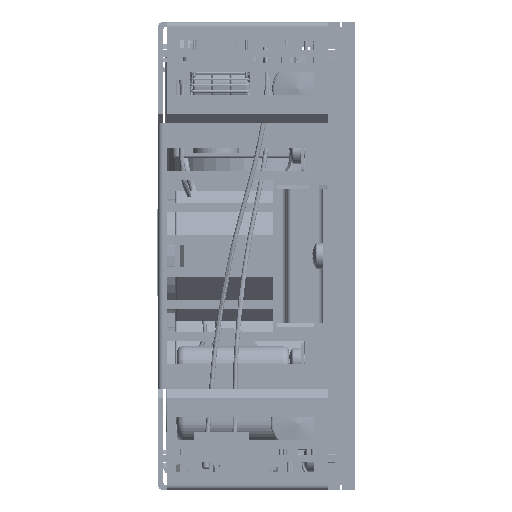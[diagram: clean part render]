
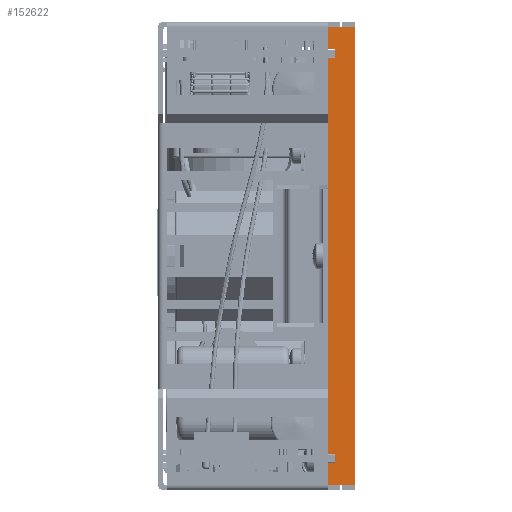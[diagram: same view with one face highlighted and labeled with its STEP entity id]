
A CAD part, left-side view. The second image highlights one B-rep face of the part: STEP entity #152622.
In plain terms, the highlighted planar face has unit normal (-1, 0, 0).
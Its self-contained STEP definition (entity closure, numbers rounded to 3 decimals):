
#106738 = VERTEX_POINT ( 'NONE', #167262 ) ;
#150041 = EDGE_LOOP ( 'NONE', ( #152839, #152863, #152670, #152699, #152843, #152752, #152866, #152940, #152713, #152736, #152948, #152819 ) ) ;
#151825 = VERTEX_POINT ( 'NONE', #250520 ) ;
#152067 = EDGE_CURVE ( 'NONE', #151825, #160185, #250888, .T. ) ;
#152508 = EDGE_CURVE ( 'NONE', #299690, #166200, #251871, .T. ) ;
#152622 = ADVANCED_FACE ( 'NONE', ( #252221 ), #252245, .F. ) ;
#152670 = ORIENTED_EDGE ( 'NONE', *, *, #300370, .T. ) ;
#152699 = ORIENTED_EDGE ( 'NONE', *, *, #152865, .F. ) ;
#152701 = EDGE_CURVE ( 'NONE', #152850, #152854, #252286, .T. ) ;
#152713 = ORIENTED_EDGE ( 'NONE', *, *, #152926, .F. ) ;
#152730 = EDGE_CURVE ( 'NONE', #106738, #152850, #252376, .T. ) ;
#152736 = ORIENTED_EDGE ( 'NONE', *, *, #152958, .F. ) ;
#152740 = VERTEX_POINT ( 'NONE', #252377 ) ;
#152752 = ORIENTED_EDGE ( 'NONE', *, *, #152730, .F. ) ;
#152819 = ORIENTED_EDGE ( 'NONE', *, *, #152508, .F. ) ;
#152839 = ORIENTED_EDGE ( 'NONE', *, *, #299738, .T. ) ;
#152843 = ORIENTED_EDGE ( 'NONE', *, *, #152701, .F. ) ;
#152850 = VERTEX_POINT ( 'NONE', #252444 ) ;
#152854 = VERTEX_POINT ( 'NONE', #252654 ) ;
#152863 = ORIENTED_EDGE ( 'NONE', *, *, #303198, .T. ) ;
#152865 = EDGE_CURVE ( 'NONE', #152854, #300190, #252572, .T. ) ;
#152866 = ORIENTED_EDGE ( 'NONE', *, *, #165036, .T. ) ;
#152926 = EDGE_CURVE ( 'NONE', #152740, #151825, #252789, .T. ) ;
#152940 = ORIENTED_EDGE ( 'NONE', *, *, #152067, .F. ) ;
#152948 = ORIENTED_EDGE ( 'NONE', *, *, #276411, .T. ) ;
#152958 = EDGE_CURVE ( 'NONE', #164330, #152740, #252915, .T. ) ;
#160185 = VERTEX_POINT ( 'NONE', #270523 ) ;
#164330 = VERTEX_POINT ( 'NONE', #282570 ) ;
#165036 = EDGE_CURVE ( 'NONE', #106738, #160185, #284183, .T. ) ;
#166200 = VERTEX_POINT ( 'NONE', #286981 ) ;
#167262 = CARTESIAN_POINT ( 'NONE',  ( 7.656, 4.5, 62.3 ) ) ;
#250520 = CARTESIAN_POINT ( 'NONE',  ( 7.656, 6., -24.1 ) ) ;
#250883 = DIRECTION ( 'NONE',  ( 0., 0., 1. ) ) ;
#250884 = VECTOR ( 'NONE', #250883, 1000. ) ;
#250885 = CARTESIAN_POINT ( 'NONE',  ( 7.656, 6., 70.1 ) ) ;
#250888 = LINE ( 'NONE', #250885, #250884 ) ;
#251871 = LINE ( 'NONE', #251902, #251900 ) ;
#251899 = DIRECTION ( 'NONE',  ( 0., 0., 1. ) ) ;
#251900 = VECTOR ( 'NONE', #251899, 1000. ) ;
#251902 = CARTESIAN_POINT ( 'NONE',  ( 7.656, 6., 70.1 ) ) ;
#252186 = DIRECTION ( 'NONE',  ( 0., 0., -1. ) ) ;
#252213 = AXIS2_PLACEMENT_3D ( 'NONE', #252217, #252239, #252186 ) ;
#252217 = CARTESIAN_POINT ( 'NONE',  ( 7.656, 6., 70.1 ) ) ;
#252221 = FACE_OUTER_BOUND ( 'NONE', #150041, .T. ) ;
#252239 = DIRECTION ( 'NONE',  ( 1., 0., 0. ) ) ;
#252245 = PLANE ( 'NONE',  #252213 ) ;
#252261 = DIRECTION ( 'NONE',  ( 0., 1., 0. ) ) ;
#252263 = VECTOR ( 'NONE', #252261, 1000. ) ;
#252265 = CARTESIAN_POINT ( 'NONE',  ( 7.656, 4.5, 64.3 ) ) ;
#252286 = LINE ( 'NONE', #252265, #252263 ) ;
#252374 = VECTOR ( 'NONE', #252391, 1000. ) ;
#252376 = LINE ( 'NONE', #252387, #252374 ) ;
#252377 = CARTESIAN_POINT ( 'NONE',  ( 7.656, 4.5, -24.1 ) ) ;
#252387 = CARTESIAN_POINT ( 'NONE',  ( 7.656, 4.5, 64.3 ) ) ;
#252391 = DIRECTION ( 'NONE',  ( 0., 0., 1. ) ) ;
#252444 = CARTESIAN_POINT ( 'NONE',  ( 7.656, 4.5, 64.3 ) ) ;
#252565 = DIRECTION ( 'NONE',  ( 0., 0., 1. ) ) ;
#252567 = VECTOR ( 'NONE', #252565, 1000. ) ;
#252570 = CARTESIAN_POINT ( 'NONE',  ( 7.656, 6., 70.1 ) ) ;
#252572 = LINE ( 'NONE', #252570, #252567 ) ;
#252654 = CARTESIAN_POINT ( 'NONE',  ( 7.656, 6., 64.3 ) ) ;
#252708 = DIRECTION ( 'NONE',  ( 0., 0., 1. ) ) ;
#252710 = CARTESIAN_POINT ( 'NONE',  ( 7.656, 4.5, -26.1 ) ) ;
#252789 = LINE ( 'NONE', #252937, #252934 ) ;
#252874 = VECTOR ( 'NONE', #252708, 1000. ) ;
#252915 = LINE ( 'NONE', #252710, #252874 ) ;
#252933 = DIRECTION ( 'NONE',  ( 0., 1., 0. ) ) ;
#252934 = VECTOR ( 'NONE', #252933, 1000. ) ;
#252937 = CARTESIAN_POINT ( 'NONE',  ( 7.656, 4.5, -24.1 ) ) ;
#270523 = CARTESIAN_POINT ( 'NONE',  ( 7.656, 6., 62.3 ) ) ;
#276411 = EDGE_CURVE ( 'NONE', #164330, #166200, #284512, .T. ) ;
#282570 = CARTESIAN_POINT ( 'NONE',  ( 7.656, 4.5, -26.1 ) ) ;
#284177 = DIRECTION ( 'NONE',  ( 0., 1., 0. ) ) ;
#284180 = VECTOR ( 'NONE', #284177, 1000. ) ;
#284181 = CARTESIAN_POINT ( 'NONE',  ( 7.656, 4.5, 62.3 ) ) ;
#284183 = LINE ( 'NONE', #284181, #284180 ) ;
#284506 = DIRECTION ( 'NONE',  ( 0., 1., 0. ) ) ;
#284509 = VECTOR ( 'NONE', #284506, 1000. ) ;
#284510 = CARTESIAN_POINT ( 'NONE',  ( 7.656, 4.5, -26.1 ) ) ;
#284512 = LINE ( 'NONE', #284510, #284509 ) ;
#286981 = CARTESIAN_POINT ( 'NONE',  ( 7.656, 6., -26.1 ) ) ;
#299690 = VERTEX_POINT ( 'NONE', #329264 ) ;
#299738 = EDGE_CURVE ( 'NONE', #299690, #299741, #329313, .T. ) ;
#299741 = VERTEX_POINT ( 'NONE', #329288 ) ;
#300104 = VERTEX_POINT ( 'NONE', #330464 ) ;
#300190 = VERTEX_POINT ( 'NONE', #330664 ) ;
#300370 = EDGE_CURVE ( 'NONE', #300104, #300190, #330874, .T. ) ;
#303198 = EDGE_CURVE ( 'NONE', #299741, #300104, #336323, .T. ) ;
#329264 = CARTESIAN_POINT ( 'NONE',  ( 7.656, 6., -30.9 ) ) ;
#329284 = DIRECTION ( 'NONE',  ( 0., -1., 0. ) ) ;
#329285 = VECTOR ( 'NONE', #329284, 1000. ) ;
#329288 = CARTESIAN_POINT ( 'NONE',  ( 7.656, 0., -30.9 ) ) ;
#329310 = CARTESIAN_POINT ( 'NONE',  ( 7.656, 6., -30.9 ) ) ;
#329313 = LINE ( 'NONE', #329310, #329285 ) ;
#330464 = CARTESIAN_POINT ( 'NONE',  ( 7.656, 0., 69.1 ) ) ;
#330664 = CARTESIAN_POINT ( 'NONE',  ( 7.656, 6., 69.1 ) ) ;
#330870 = DIRECTION ( 'NONE',  ( 0., 1., 0. ) ) ;
#330871 = VECTOR ( 'NONE', #330870, 1000. ) ;
#330873 = CARTESIAN_POINT ( 'NONE',  ( 7.656, 6., 69.1 ) ) ;
#330874 = LINE ( 'NONE', #330873, #330871 ) ;
#336290 = DIRECTION ( 'NONE',  ( 0., 0., 1. ) ) ;
#336317 = VECTOR ( 'NONE', #336290, 1000. ) ;
#336320 = CARTESIAN_POINT ( 'NONE',  ( 7.656, 0., 70.1 ) ) ;
#336323 = LINE ( 'NONE', #336320, #336317 ) ;
